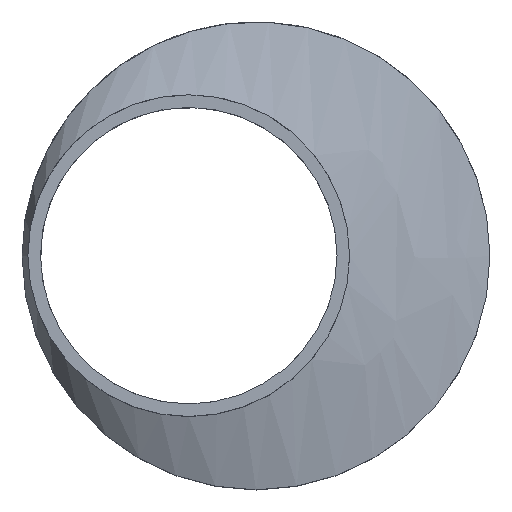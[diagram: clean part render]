
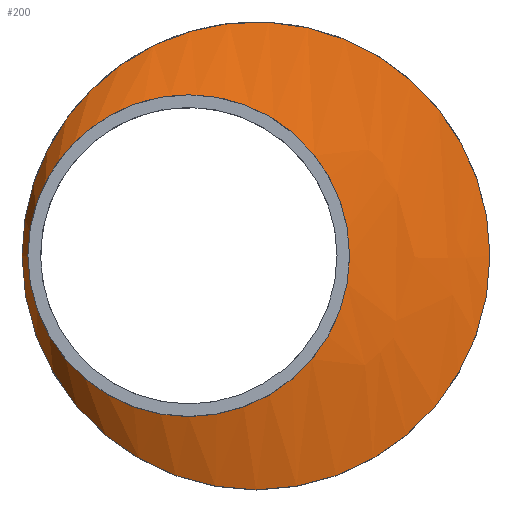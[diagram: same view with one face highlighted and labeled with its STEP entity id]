
A CAD part, top view. The second image highlights one B-rep face of the part: STEP entity #200.
In plain terms, the highlighted free-form (B-spline) face has degree [1, 2] with [2, 9] control points.
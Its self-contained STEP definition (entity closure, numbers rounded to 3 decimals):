
#15=B_SPLINE_CURVE_WITH_KNOTS($,1,(#381,#382),.UNSPECIFIED.,.F.,.F.,(2,
2),(-0.356,0.),.UNSPECIFIED.);
#17=(
BOUNDED_SURFACE()
B_SPLINE_SURFACE(1,2,((#359,#360,#361,#362,#363,#364,#365,#366,#367),(#368,
#369,#370,#371,#372,#373,#374,#375,#376)),.UNSPECIFIED.,.F.,.T.,.F.)
B_SPLINE_SURFACE_WITH_KNOTS((2,2),(3,2,2,2,3),(-2.789,0.692),
(-3.142,-1.571,0.,1.571,3.142),
 .UNSPECIFIED.)
GEOMETRIC_REPRESENTATION_ITEM()
RATIONAL_B_SPLINE_SURFACE(((1.,0.707,1.,0.707,1.,
0.707,1.,0.707,1.),(1.,0.707,1.,0.707,
1.,0.707,1.,0.707,1.)))
REPRESENTATION_ITEM($)
SURFACE()
);
#47=FACE_OUTER_BOUND($,#67,.T.);
#67=EDGE_LOOP($,(#157,#158,#159,#160,#161,#162));
#83=CIRCLE($,#221,80.);
#84=CIRCLE($,#222,80.);
#91=CIRCLE($,#231,55.);
#92=CIRCLE($,#232,55.);
#101=VERTEX_POINT($,#321);
#102=VERTEX_POINT($,#322);
#109=VERTEX_POINT($,#377);
#110=VERTEX_POINT($,#378);
#119=EDGE_CURVE($,#101,#102,#83,.T.);
#120=EDGE_CURVE($,#102,#101,#84,.T.);
#128=EDGE_CURVE($,#109,#110,#91,.T.);
#129=EDGE_CURVE($,#110,#109,#92,.T.);
#130=EDGE_CURVE($,#110,#102,#15,.T.);
#157=ORIENTED_EDGE($,*,*,#128,.F.);
#158=ORIENTED_EDGE($,*,*,#129,.F.);
#159=ORIENTED_EDGE($,*,*,#130,.T.);
#160=ORIENTED_EDGE($,*,*,#119,.F.);
#161=ORIENTED_EDGE($,*,*,#120,.F.);
#162=ORIENTED_EDGE($,*,*,#130,.F.);
#200=ADVANCED_FACE($,(#47),#17,.F.);
#221=AXIS2_PLACEMENT_3D($,#323,#266,#267);
#222=AXIS2_PLACEMENT_3D($,#324,#268,#269);
#231=AXIS2_PLACEMENT_3D($,#379,#286,#287);
#232=AXIS2_PLACEMENT_3D($,#380,#288,#289);
#266=DIRECTION('center_axis',(0.,0.,-1.));
#267=DIRECTION('ref_axis',(-1.,0.,0.));
#268=DIRECTION('center_axis',(0.,0.,-1.));
#269=DIRECTION('ref_axis',(-1.,0.,0.));
#286=DIRECTION('center_axis',(0.,0.,1.));
#287=DIRECTION('ref_axis',(-1.,0.,0.));
#288=DIRECTION('center_axis',(0.,0.,1.));
#289=DIRECTION('ref_axis',(-1.,0.,0.));
#321=CARTESIAN_POINT('',(80.,0.,35.));
#322=CARTESIAN_POINT('',(-56.815,56.321,35.));
#323=CARTESIAN_POINT('Origin',(0.,0.,35.));
#324=CARTESIAN_POINT('Origin',(0.,0.,35.));
#359=CARTESIAN_POINT('Ctrl Pts',(-15.684,194.338,-27.735));
#360=CARTESIAN_POINT('Ctrl Pts',(-111.367,194.338,-90.469));
#361=CARTESIAN_POINT('Ctrl Pts',(-111.367,0.,-90.469));
#362=CARTESIAN_POINT('Ctrl Pts',(-111.367,-194.338,-90.469));
#363=CARTESIAN_POINT('Ctrl Pts',(-15.684,-194.338,-27.735));
#364=CARTESIAN_POINT('Ctrl Pts',(80.,-194.338,35.));
#365=CARTESIAN_POINT('Ctrl Pts',(80.,0.,35.));
#366=CARTESIAN_POINT('Ctrl Pts',(80.,194.338,35.));
#367=CARTESIAN_POINT('Ctrl Pts',(-15.684,194.338,-27.735));
#368=CARTESIAN_POINT('Ctrl Pts',(-67.022,22.072,50.568));
#369=CARTESIAN_POINT('Ctrl Pts',(-77.889,22.072,43.443));
#370=CARTESIAN_POINT('Ctrl Pts',(-77.889,0.,43.443));
#371=CARTESIAN_POINT('Ctrl Pts',(-77.889,-22.072,43.443));
#372=CARTESIAN_POINT('Ctrl Pts',(-67.022,-22.072,50.568));
#373=CARTESIAN_POINT('Ctrl Pts',(-56.155,-22.072,57.693));
#374=CARTESIAN_POINT('Ctrl Pts',(-56.155,0.,57.693));
#375=CARTESIAN_POINT('Ctrl Pts',(-56.155,22.072,57.693));
#376=CARTESIAN_POINT('Ctrl Pts',(-67.022,22.072,50.568));
#377=CARTESIAN_POINT('',(32.,0.,43.));
#378=CARTESIAN_POINT('',(-62.061,38.72,43.));
#379=CARTESIAN_POINT('Origin',(-23.,0.,43.));
#380=CARTESIAN_POINT('Origin',(-23.,0.,43.));
#381=CARTESIAN_POINT('Ctrl Pts',(-62.061,38.72,43.));
#382=CARTESIAN_POINT('Ctrl Pts',(-56.815,56.321,35.));
